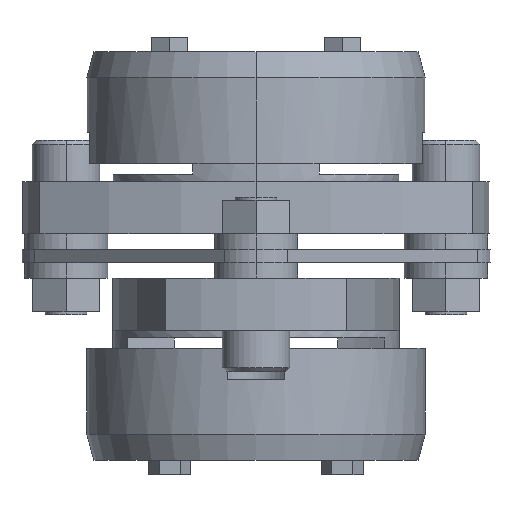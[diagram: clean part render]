
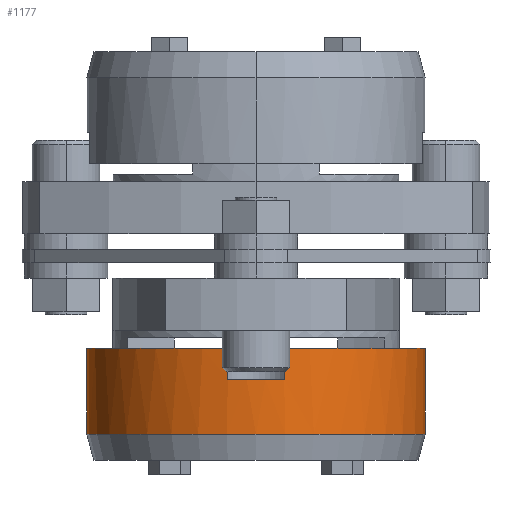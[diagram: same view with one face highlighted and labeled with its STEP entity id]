
A CAD part, left-side view. The second image highlights one B-rep face of the part: STEP entity #1177.
In plain terms, the highlighted cylindrical face has radius 32.5 mm (diameter 65 mm), a partial arc.
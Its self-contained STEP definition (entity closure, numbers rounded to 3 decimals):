
#1005=CARTESIAN_POINT('',(0.,32.5,-34.25));
#1006=VERTEX_POINT('',#1005);
#1022=CARTESIAN_POINT('',(0.,-32.5,-34.25));
#1023=VERTEX_POINT('',#1022);
#1030=CARTESIAN_POINT('',(0.,0.,-34.25));
#1031=DIRECTION('',(0.0,0.0,-1.0));
#1032=DIRECTION('',(0.0,1.0,0.0));
#1033=AXIS2_PLACEMENT_3D('',#1030,#1031,#1032);
#1034=CIRCLE('',#1033,32.5);
#1035=EDGE_CURVE('',#1023,#1006,#1034,.T.);
#1112=CARTESIAN_POINT('',(0.,0.,-17.75));
#1113=DIRECTION('',(0.0,0.0,-1.0));
#1114=DIRECTION('',(0.0,-1.0,0.0));
#1115=AXIS2_PLACEMENT_3D('',#1112,#1113,#1114);
#1116=CYLINDRICAL_SURFACE('',#1115,32.5);
#1117=CARTESIAN_POINT('',(0.,-32.5,-17.75));
#1118=VERTEX_POINT('',#1117);
#1119=CARTESIAN_POINT('',(0.,-32.5,-17.75));
#1120=DIRECTION('',(0.0,0.0,-1.0));
#1121=VECTOR('',#1120,16.5);
#1122=LINE('',#1119,#1121);
#1123=EDGE_CURVE('',#1118,#1023,#1122,.T.);
#1124=ORIENTED_EDGE('',*,*,#1123,.F.);
#1125=CARTESIAN_POINT('',(-32.048,-5.402,-17.75));
#1126=VERTEX_POINT('',#1125);
#1127=CARTESIAN_POINT('',(0.,0.,-17.75));
#1128=DIRECTION('',(0.0,0.0,-1.0));
#1129=DIRECTION('',(0.0,-1.0,0.0));
#1130=AXIS2_PLACEMENT_3D('',#1127,#1128,#1129);
#1131=CIRCLE('',#1130,32.5);
#1132=EDGE_CURVE('',#1118,#1126,#1131,.T.);
#1133=ORIENTED_EDGE('',*,*,#1132,.T.);
#1134=CARTESIAN_POINT('',(-32.048,-5.402,-23.75));
#1135=VERTEX_POINT('',#1134);
#1136=CARTESIAN_POINT('',(-32.048,-5.402,-17.75));
#1137=DIRECTION('',(0.0,0.0,-1.0));
#1138=VECTOR('',#1137,6.0);
#1139=LINE('',#1136,#1138);
#1140=EDGE_CURVE('',#1126,#1135,#1139,.T.);
#1141=ORIENTED_EDGE('',*,*,#1140,.T.);
#1142=CARTESIAN_POINT('',(-32.048,5.402,-23.75));
#1143=VERTEX_POINT('',#1142);
#1144=CARTESIAN_POINT('',(0.,0.,-23.75));
#1145=DIRECTION('',(0.0,0.0,-1.0));
#1146=DIRECTION('',(0.0,-1.0,0.0));
#1147=AXIS2_PLACEMENT_3D('',#1144,#1145,#1146);
#1148=CIRCLE('',#1147,32.5);
#1149=EDGE_CURVE('',#1135,#1143,#1148,.T.);
#1150=ORIENTED_EDGE('',*,*,#1149,.T.);
#1151=CARTESIAN_POINT('',(-32.048,5.402,-17.75));
#1152=VERTEX_POINT('',#1151);
#1153=CARTESIAN_POINT('',(-32.048,5.402,-23.75));
#1154=DIRECTION('',(0.0,0.0,1.0));
#1155=VECTOR('',#1154,6.0);
#1156=LINE('',#1153,#1155);
#1157=EDGE_CURVE('',#1143,#1152,#1156,.T.);
#1158=ORIENTED_EDGE('',*,*,#1157,.T.);
#1159=CARTESIAN_POINT('',(0.,32.5,-17.75));
#1160=VERTEX_POINT('',#1159);
#1161=CARTESIAN_POINT('',(0.,0.,-17.75));
#1162=DIRECTION('',(0.0,0.0,-1.0));
#1163=DIRECTION('',(0.0,-1.0,0.0));
#1164=AXIS2_PLACEMENT_3D('',#1161,#1162,#1163);
#1165=CIRCLE('',#1164,32.5);
#1166=EDGE_CURVE('',#1152,#1160,#1165,.T.);
#1167=ORIENTED_EDGE('',*,*,#1166,.T.);
#1168=CARTESIAN_POINT('',(0.,32.5,-34.25));
#1169=DIRECTION('',(0.0,0.0,1.0));
#1170=VECTOR('',#1169,16.5);
#1171=LINE('',#1168,#1170);
#1172=EDGE_CURVE('',#1006,#1160,#1171,.T.);
#1173=ORIENTED_EDGE('',*,*,#1172,.F.);
#1174=ORIENTED_EDGE('',*,*,#1035,.F.);
#1175=EDGE_LOOP('',(#1124,#1133,#1141,#1150,#1158,#1167,#1173,#1174));
#1176=FACE_OUTER_BOUND('',#1175,.T.);
#1177=ADVANCED_FACE('',(#1176),#1116,.T.);
